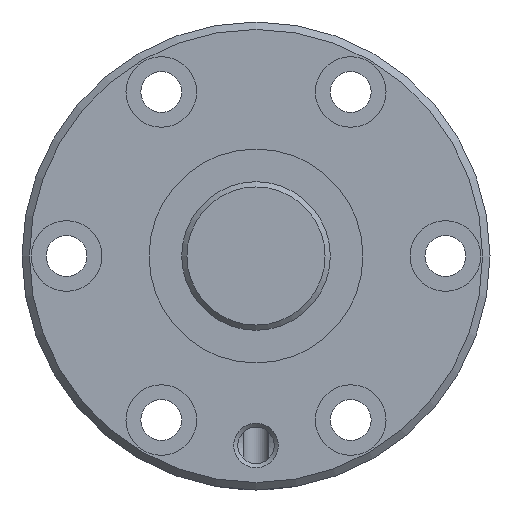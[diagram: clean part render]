
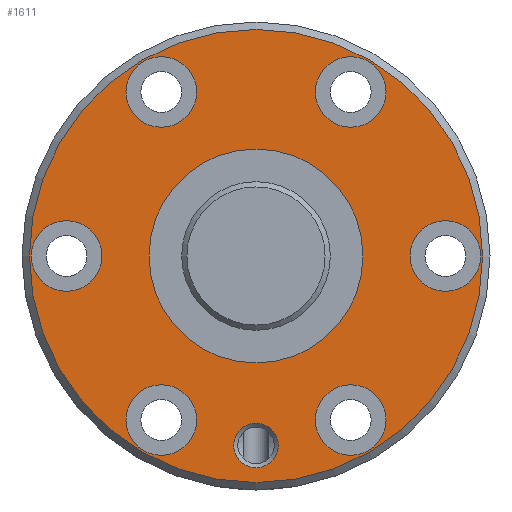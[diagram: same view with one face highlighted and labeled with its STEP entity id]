
A CAD part, left-side view. The second image highlights one B-rep face of the part: STEP entity #1611.
In plain terms, the highlighted planar face has unit normal (-1, 0, 0).
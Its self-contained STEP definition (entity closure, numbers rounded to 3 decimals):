
#338=ORIENTED_EDGE('',*,*,#769,.T.);
#339=ORIENTED_EDGE('',*,*,#770,.T.);
#340=ORIENTED_EDGE('',*,*,#771,.T.);
#341=ORIENTED_EDGE('',*,*,#772,.T.);
#342=ORIENTED_EDGE('',*,*,#773,.T.);
#343=ORIENTED_EDGE('',*,*,#774,.T.);
#344=ORIENTED_EDGE('',*,*,#775,.T.);
#345=ORIENTED_EDGE('',*,*,#776,.T.);
#346=ORIENTED_EDGE('',*,*,#768,.F.);
#768=EDGE_CURVE('',#987,#987,#1078,.T.);
#769=EDGE_CURVE('',#988,#988,#1079,.T.);
#770=EDGE_CURVE('',#989,#989,#1080,.F.);
#771=EDGE_CURVE('',#990,#990,#1081,.T.);
#772=EDGE_CURVE('',#991,#991,#1082,.T.);
#773=EDGE_CURVE('',#992,#992,#1083,.T.);
#774=EDGE_CURVE('',#993,#993,#1084,.T.);
#775=EDGE_CURVE('',#994,#994,#1085,.T.);
#776=EDGE_CURVE('',#995,#995,#1086,.T.);
#987=VERTEX_POINT('',#2819);
#988=VERTEX_POINT('',#2822);
#989=VERTEX_POINT('',#2824);
#990=VERTEX_POINT('',#2826);
#991=VERTEX_POINT('',#2828);
#992=VERTEX_POINT('',#2830);
#993=VERTEX_POINT('',#2832);
#994=VERTEX_POINT('',#2834);
#995=VERTEX_POINT('',#2836);
#1078=CIRCLE('',#1753,30.5);
#1079=CIRCLE('',#1755,14.4);
#1080=CIRCLE('',#1756,4.75);
#1081=CIRCLE('',#1757,3.);
#1082=CIRCLE('',#1758,4.75);
#1083=CIRCLE('',#1759,4.75);
#1084=CIRCLE('',#1760,4.75);
#1085=CIRCLE('',#1761,4.75);
#1086=CIRCLE('',#1762,4.75);
#1226=EDGE_LOOP('',(#338));
#1227=EDGE_LOOP('',(#339));
#1228=EDGE_LOOP('',(#340));
#1229=EDGE_LOOP('',(#341));
#1230=EDGE_LOOP('',(#342));
#1231=EDGE_LOOP('',(#343));
#1232=EDGE_LOOP('',(#344));
#1233=EDGE_LOOP('',(#345));
#1234=EDGE_LOOP('',(#346));
#1406=FACE_BOUND('',#1226,.T.);
#1407=FACE_BOUND('',#1227,.T.);
#1408=FACE_BOUND('',#1228,.T.);
#1409=FACE_BOUND('',#1229,.T.);
#1410=FACE_BOUND('',#1230,.T.);
#1411=FACE_BOUND('',#1231,.T.);
#1412=FACE_BOUND('',#1232,.T.);
#1413=FACE_BOUND('',#1233,.T.);
#1414=FACE_BOUND('',#1234,.T.);
#1558=PLANE('',#1754);
#1611=ADVANCED_FACE('',(#1406,#1407,#1408,#1409,#1410,#1411,#1412,#1413,
#1414),#1558,.T.);
#1753=AXIS2_PLACEMENT_3D('',#2818,#2073,#2074);
#1754=AXIS2_PLACEMENT_3D('',#2820,#2075,#2076);
#1755=AXIS2_PLACEMENT_3D('',#2821,#2077,#2078);
#1756=AXIS2_PLACEMENT_3D('',#2823,#2079,#2080);
#1757=AXIS2_PLACEMENT_3D('',#2825,#2081,#2082);
#1758=AXIS2_PLACEMENT_3D('',#2827,#2083,#2084);
#1759=AXIS2_PLACEMENT_3D('',#2829,#2085,#2086);
#1760=AXIS2_PLACEMENT_3D('',#2831,#2087,#2088);
#1761=AXIS2_PLACEMENT_3D('',#2833,#2089,#2090);
#1762=AXIS2_PLACEMENT_3D('',#2835,#2091,#2092);
#2073=DIRECTION('',(1.,0.,0.));
#2074=DIRECTION('',(0.,0.,-1.));
#2075=DIRECTION('',(-1.,0.,0.));
#2076=DIRECTION('',(0.,0.,1.));
#2077=DIRECTION('',(1.,0.,0.));
#2078=DIRECTION('',(0.,0.,-1.));
#2079=DIRECTION('',(-1.,0.,0.));
#2080=DIRECTION('',(0.,0.,1.));
#2081=DIRECTION('',(1.,0.,0.));
#2082=DIRECTION('',(0.,0.,-1.));
#2083=DIRECTION('',(1.,0.,0.));
#2084=DIRECTION('',(0.,0.,-1.));
#2085=DIRECTION('',(1.,0.,0.));
#2086=DIRECTION('',(0.,0.,-1.));
#2087=DIRECTION('',(1.,0.,0.));
#2088=DIRECTION('',(0.,0.,-1.));
#2089=DIRECTION('',(1.,0.,0.));
#2090=DIRECTION('',(0.,0.,-1.));
#2091=DIRECTION('',(1.,0.,0.));
#2092=DIRECTION('',(0.,0.,-1.));
#2818=CARTESIAN_POINT('',(0.,0.,0.));
#2819=CARTESIAN_POINT('',(0.,0.,-30.5));
#2820=CARTESIAN_POINT('',(0.,30.5,0.));
#2821=CARTESIAN_POINT('',(0.,0.,0.));
#2822=CARTESIAN_POINT('',(0.,0.,-14.4));
#2823=CARTESIAN_POINT('',(0.,25.5,0.));
#2824=CARTESIAN_POINT('',(0.,25.5,4.75));
#2825=CARTESIAN_POINT('',(0.,0.,-25.5));
#2826=CARTESIAN_POINT('',(0.,0.,-28.5));
#2827=CARTESIAN_POINT('',(0.,12.75,22.084));
#2828=CARTESIAN_POINT('',(0.,12.75,17.334));
#2829=CARTESIAN_POINT('',(0.,-12.75,-22.084));
#2830=CARTESIAN_POINT('',(0.,-12.75,-26.834));
#2831=CARTESIAN_POINT('',(0.,-12.75,22.084));
#2832=CARTESIAN_POINT('',(0.,-12.75,17.334));
#2833=CARTESIAN_POINT('',(0.,12.75,-22.084));
#2834=CARTESIAN_POINT('',(0.,12.75,-26.834));
#2835=CARTESIAN_POINT('',(0.,-25.5,0.));
#2836=CARTESIAN_POINT('',(0.,-25.5,-4.75));
